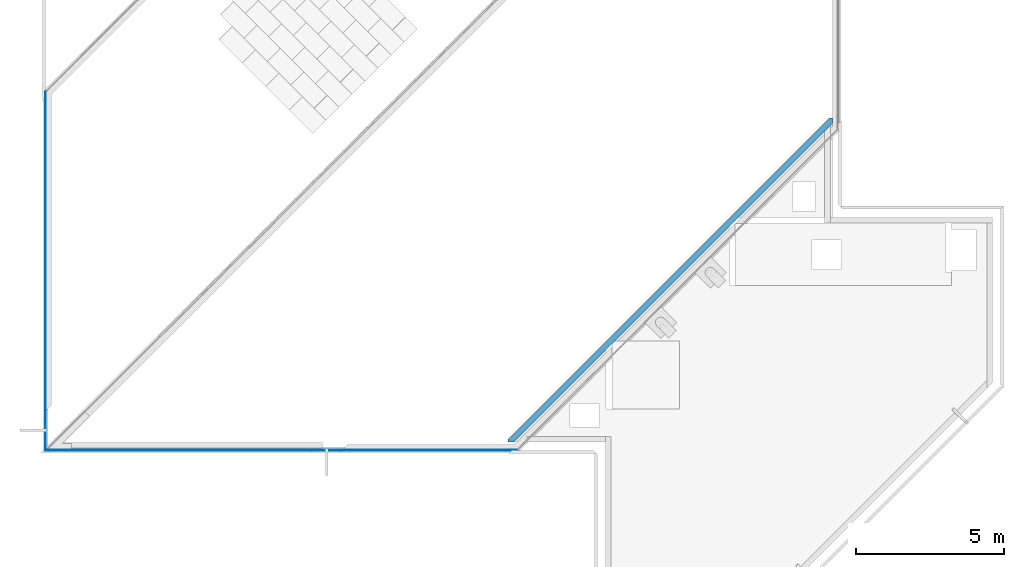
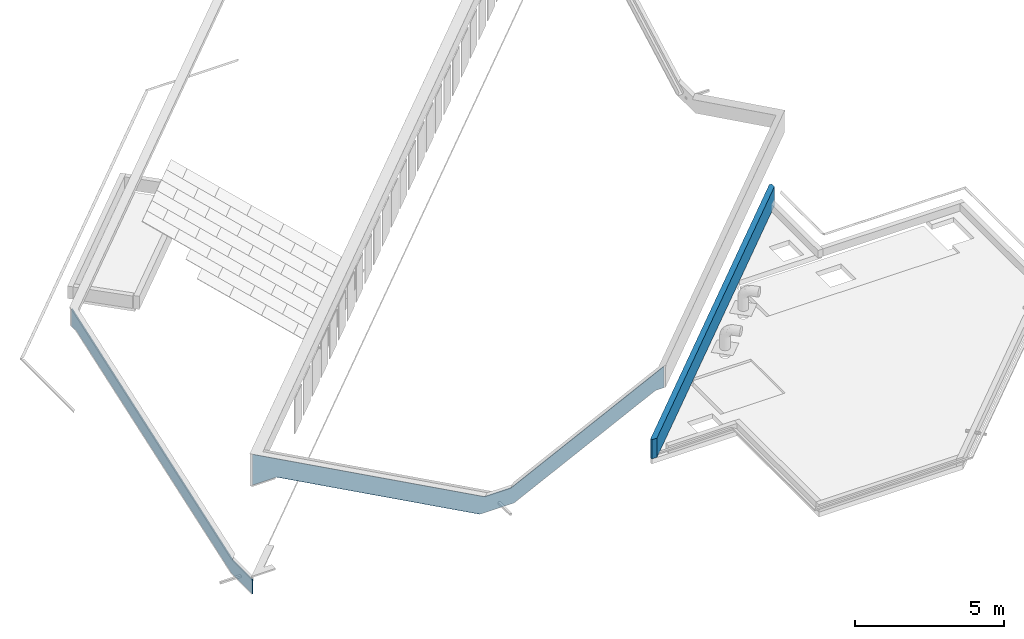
# One storey, part 4 of 8: 2 plates, 1 beam.
"""IFC4X3_ADD2 building model written with IfcOpenShell, lengths in millimetres."""

from ifc_helpers import new_model, si_unit, direction, frame, origin_with_axes, place, context, subcontext, project, spatial, polygons, source, transform, mapped, material, type_object, type_shapes, element, save


model = new_model("IFC4X3_ADD2")

# Units and contexts
model_context = context("Model", 3, precision=1e-05, world=origin_with_axes(), true_north=direction((0.0, 1.0)))
body_context = subcontext(model_context, "Body", "Model", "MODEL_VIEW")
ifc_project = project(units=[si_unit("LENGTHUNIT", "METRE", prefix="MILLI"), si_unit("AREAUNIT", "SQUARE_METRE"), si_unit("VOLUMEUNIT", "CUBIC_METRE"), si_unit("PLANEANGLEUNIT", "RADIAN"), si_unit("TIMEUNIT", "SECOND"), si_unit("MASSUNIT", "GRAM")], contexts=[model_context])

# Site, building, storey
site_placement = place(None, origin_with_axes())
site = spatial("IfcSite", under=ifc_project, at=site_placement, Name="Site", CompositionType="ELEMENT")
building_placement = place(site_placement, origin_with_axes())
building = spatial("IfcBuilding", under=site, at=building_placement, Name="IFC Building Story")
storey_placement = place(building_placement, frame((0.0, 0.0, 17050.0), z_axis=(0.0, 0.0, 1.0), x_axis=(1.0, 0.0, 0.0)))
storey = spatial("IfcBuildingStorey", under=building, at=storey_placement, Name="050", Elevation=17050.0)

# Beam
ifc_material = material(Name="BB_Beton_Bestaand")
beam_type = type_object("IfcBeamType", Name="BB_XX_Betonbalk_ rechthoekig_ center-center_SFB_200 x 790 mm", PredefinedType="NOTDEFINED")
shared_shape_1 = source(origin_with_axes(), body_context, "Body", "Tessellation", [
    polygons([(0.213261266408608, 0.0, 2.16573425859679e-12), (0.213261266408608, 0.0, 790.0), (4.33146851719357e-12, 0.213261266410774, 790.000000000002), (4.33146851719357e-12, 0.213261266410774, 2.16573425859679e-12), (10891.7749651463, 10971.5371151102, 790.0), (10891.7749651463, 10971.5371151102, 0.0), (0.329633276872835, 80.0917832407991, 0.0), (0.329633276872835, 80.0917832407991, 790.0), (10986.8316088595, 10971.558307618, 2.16573425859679e-12), (10986.8446345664, 10913.1329437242, 2.16573425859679e-12), (10986.8734704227, 10783.792907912, 2.16573425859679e-12), (10986.5781167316, 10783.4975542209, 2.16573425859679e-12), (10916.5781167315, 10713.4975542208, 2.16573425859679e-12), (10726.5781167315, 10523.4975542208, 2.16573425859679e-12), (203.125801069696, 0.0452385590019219, 2.16573425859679e-12), (0.347441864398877, 0.213338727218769, 2.16573425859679e-12), (10986.8734704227, 10783.792907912, 310.000000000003), (10986.8734704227, 10783.792907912, 790.0), (203.125801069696, 0.0452385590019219, 790.000000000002), (10986.8316088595, 10971.558307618, 790.0), (0.347441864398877, 0.213338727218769, 790.0)], [[[1, 2, 3, 4]], [[5, 6, 7, 8]], [[16, 7, 6]], [[16, 6, 14]], [[16, 14, 15]], [[15, 1, 16]], [[1, 4, 16]], [[6, 13, 14]], [[6, 12, 13]], [[6, 10, 11]], [[6, 11, 12]], [[6, 9, 10]], [[17, 18, 19]], [[17, 19, 15]], [[12, 11, 17]], [[17, 13, 12]], [[17, 14, 13]], [[17, 15, 14]], [[21, 3, 2]], [[21, 2, 19]], [[19, 18, 20]], [[19, 20, 5]], [[19, 5, 8]], [[19, 8, 21]], [[10, 9, 17]], [[17, 11, 10]], [[9, 20, 18]], [[9, 18, 17]], [[9, 6, 5, 20]], [[1, 15, 19, 2]], [[21, 16, 4, 3]], [[16, 21, 8, 7]]]),
])
type_shapes(beam_type, [shared_shape_1])
beam_placement = place(storey_placement, frame((-23416.5821826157, 12508.3040049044, -50.0), z_axis=(0.0, 0.0, 1.0), x_axis=(1.0, 0.0, 0.0)))
element("IfcBeam", 1, at=beam_placement, inside=storey, type_object=beam_type, material=ifc_material, Name="BB_XX_Betonbalk, rechthoekig, center-center_SFB:200 x 790 mm", ObjectType="BB_XX_Betonbalk, rechthoekig, center-center_SFB:200 x 790 mm", PredefinedType="BEAM", context=body_context, shape_type="MappedRepresentation", body=[
    mapped(shared_shape_1, transform((0.0, 0.0, 0.0))),
])

# Plates
shared_shape_2 = source(origin_with_axes(), body_context, "Body", "Tessellation", [
    polygons([(5917.66068279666, -14.0000000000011, 662.000000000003), (5917.66068279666, -11.9999999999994, 662.000000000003), (1778.78819087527, -11.9999999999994, 2695.0), (68.6785532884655, -11.9999999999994, 3535.0), (2.00000000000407, -11.9999999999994, 3567.7522771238), (0.0, -14.0000000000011, 3568.73467027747), (68.6785532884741, -14.0000000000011, 3535.0), (1778.78819087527, -14.0000000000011, 2695.0), (6978.03783669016, -14.0000000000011, 661.999999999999), (6978.03783669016, -12.0000000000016, 661.999999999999), (10720.3210771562, -14.0000000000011, 2695.0), (12266.5669807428, -14.0000000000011, 3535.0), (13647.1436803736, -14.0000000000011, 4285.0), (15900.943250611, -14.0000000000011, 5509.37940472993), (15902.943250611, -11.9999999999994, 5510.46590720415), (13647.1436803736, -12.0000000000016, 4285.0), (12266.5669807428, -11.9999999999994, 3535.0), (10720.3210771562, -11.9999999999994, 2695.0), (7146.11474018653, -14.0000000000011, 2.16573425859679e-12), (7146.11474018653, -11.9999999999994, 2.16573425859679e-12), (12107.6220369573, -11.9999999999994, 2695.0), (13654.065869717, -12.0000000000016, 3535.0), (15034.8192918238, -12.0000000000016, 4285.0), (15034.8192918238, -14.0000000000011, 4285.0), (13654.065869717, -14.0000000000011, 3535.0), (12107.6220369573, -14.0000000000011, 2695.0), (5828.51985853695, -14.0000000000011, 2.16573425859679e-12), (5828.51985853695, -11.9999999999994, 0.0), (341.918103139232, -14.0000000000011, 2695.0), (341.918103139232, -11.9999999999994, 2695.0), (2.00000000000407, -11.9999999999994, 2695.0), (2.00000000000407, -11.9999999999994, 3535.0), (15902.943250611, -11.9999999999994, 4285.0), (15900.943250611, -14.0000000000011, 4285.0), (0.0, -14.0000000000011, 3535.0), (0.0, -14.0000000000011, 2695.0)], [[[4, 5, 6]], [[4, 6, 7]], [[7, 8, 3]], [[7, 3, 4]], [[8, 1, 2]], [[8, 2, 3]], [[9, 10, 2, 1]], [[13, 14, 15]], [[13, 15, 16]], [[16, 17, 12]], [[16, 12, 13]], [[17, 18, 11]], [[17, 11, 12]], [[18, 10, 9]], [[18, 9, 11]], [[22, 23, 24]], [[22, 24, 25]], [[25, 26, 21]], [[25, 21, 22]], [[26, 19, 20]], [[26, 20, 21]], [[19, 27, 28, 20]], [[28, 27, 29, 30]], [[30, 31, 32]], [[23, 22, 16]], [[23, 16, 15]], [[15, 33, 23]], [[22, 21, 17]], [[22, 17, 16]], [[21, 18, 17]], [[21, 20, 10]], [[21, 10, 18]], [[20, 28, 2]], [[20, 2, 10]], [[28, 30, 3]], [[28, 3, 2]], [[30, 32, 4]], [[30, 4, 3]], [[32, 5, 4]], [[24, 34, 14]], [[14, 13, 24]], [[13, 25, 24]], [[13, 12, 26]], [[13, 26, 25]], [[7, 6, 35]], [[29, 8, 7]], [[7, 35, 36]], [[7, 36, 29]], [[29, 27, 1]], [[29, 1, 8]], [[27, 19, 9]], [[27, 9, 1]], [[19, 26, 11]], [[19, 11, 9]], [[26, 12, 11]], [[36, 31, 30, 29]], [[34, 24, 23, 33]], [[35, 6, 5]], [[35, 5, 32]], [[32, 31, 36]], [[32, 36, 35]], [[34, 33, 15, 14]]]),
    polygons([(5917.66068279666, 11.9999999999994, 662.000000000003), (5917.66068279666, 13.999999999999, 662.000000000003), (1778.78819087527, 13.999999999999, 2695.0), (68.6785532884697, 13.999999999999, 3535.0), (27.9999999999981, 13.999999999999, 3554.98116612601), (25.9999999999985, 11.9999999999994, 3555.96355927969), (68.6785532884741, 11.9999999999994, 3535.0), (1778.78819087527, 11.9999999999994, 2695.0), (6978.03783669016, 11.9999999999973, 661.999999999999), (6978.03783669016, 13.999999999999, 661.999999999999), (10720.3210771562, 13.999999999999, 2695.0), (10720.3210771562, 11.9999999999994, 2695.0), (12266.5669807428, 11.9999999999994, 3535.0), (13647.1436803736, 11.9999999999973, 4285.0), (15963.7128032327, 11.9999999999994, 5543.47904184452), (15965.7128032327, 13.999999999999, 5544.56554431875), (13647.1436803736, 13.999999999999, 4285.0), (12266.5669807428, 13.999999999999, 3535.0), (7146.11474018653, 11.9999999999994, 2.16573425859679e-12), (7146.11474018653, 13.999999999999, 2.16573425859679e-12), (12107.6220369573, 13.999999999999, 2695.0), (13654.065869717, 13.999999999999, 3535.0), (15034.8192918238, 13.999999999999, 4285.0), (15034.8192918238, 11.9999999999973, 4285.0), (13654.065869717, 11.9999999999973, 3535.0), (12107.6220369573, 11.9999999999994, 2695.0), (5828.51985853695, 13.999999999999, 2.16573425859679e-12), (5828.51985853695, 11.9999999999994, 0.0), (341.918103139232, 11.9999999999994, 2695.0), (341.918103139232, 13.999999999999, 2695.0), (-8.76955262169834, 13.999999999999, 2695.0), (-8.76955262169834, 13.999999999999, 3535.0), (27.9999999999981, 13.9999999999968, 3535.0), (15965.7128032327, 13.999999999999, 4285.0), (15963.7128032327, 11.9999999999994, 4285.0), (26.0000000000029, 11.9999999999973, 3535.0), (-10.7695526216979, 11.9999999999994, 3535.0), (-10.7695526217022, 11.9999999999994, 2695.0)], [[[4, 5, 6]], [[4, 6, 7]], [[7, 8, 3]], [[7, 3, 4]], [[8, 1, 2]], [[8, 2, 3]], [[9, 10, 2, 1]], [[11, 10, 9]], [[11, 9, 12]], [[14, 15, 16]], [[14, 16, 17]], [[17, 18, 13]], [[17, 13, 14]], [[18, 11, 12]], [[18, 12, 13]], [[22, 23, 24]], [[22, 24, 25]], [[25, 26, 21]], [[25, 21, 22]], [[26, 19, 20]], [[26, 20, 21]], [[27, 20, 19, 28]], [[27, 28, 29, 30]], [[30, 31, 32]], [[23, 22, 17]], [[23, 17, 16]], [[16, 34, 23]], [[22, 21, 18]], [[22, 18, 17]], [[21, 11, 18]], [[21, 20, 10]], [[21, 10, 11]], [[20, 27, 2]], [[20, 2, 10]], [[27, 3, 2]], [[27, 33, 3]], [[33, 4, 3]], [[33, 5, 4]], [[27, 30, 32]], [[27, 32, 33]], [[24, 35, 15]], [[15, 14, 24]], [[14, 25, 24]], [[14, 13, 26]], [[14, 26, 25]], [[36, 37, 38]], [[38, 7, 36]], [[7, 6, 36]], [[29, 8, 7]], [[7, 38, 29]], [[29, 28, 1]], [[29, 1, 8]], [[28, 19, 9]], [[28, 9, 1]], [[19, 26, 12]], [[19, 12, 9]], [[26, 13, 12]], [[32, 37, 36, 33]], [[38, 31, 30, 29]], [[5, 33, 36, 6]], [[23, 34, 35, 24]], [[37, 32, 31, 38]], [[35, 34, 16, 15]]]),
    polygons([(1778.78819087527, 11.9999999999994, 2695.0), (5917.66068279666, 11.9999999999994, 662.000000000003), (6978.03783669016, 11.9999999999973, 661.999999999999), (10720.3210771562, 11.9999999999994, 2695.0), (12266.5669807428, 11.9999999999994, 3535.0), (13647.1436803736, 11.9999999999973, 4285.0), (15929.7716777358, 11.9999999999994, 5525.04048342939), (15929.7716777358, 11.9999999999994, 4285.0), (15034.8192918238, 11.9999999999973, 4285.0), (13654.065869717, 11.9999999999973, 3535.0), (12107.6220369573, 11.9999999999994, 2695.0), (7146.11474018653, 11.9999999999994, 2.16573425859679e-12), (5828.51985853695, 11.9999999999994, 0.0), (341.918103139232, 11.9999999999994, 2695.0), (23.1715728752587, 11.9999999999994, 2695.0), (23.1715728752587, 11.9999999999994, 3535.0), (26.0000000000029, 12.0000000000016, 3535.0), (25.9999999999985, 11.9999999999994, 3555.96355927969), (68.6785532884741, 11.9999999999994, 3535.0), (1.99999999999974, -11.9999999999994, 3567.7522771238), (68.6785532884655, -11.9999999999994, 3535.0), (1778.78819087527, -11.9999999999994, 2695.0), (5917.66068279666, -11.9999999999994, 662.000000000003), (6978.03783669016, -12.0000000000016, 661.999999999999), (10720.3210771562, -11.9999999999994, 2695.0), (12266.5669807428, -11.9999999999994, 3535.0), (13647.1436803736, -12.0000000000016, 4285.0), (15905.7716777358, -11.9999999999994, 5512.00245373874), (15034.8192918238, -12.0000000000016, 4285.0), (13654.065869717, -12.0000000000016, 3535.0), (12107.6220369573, -11.9999999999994, 2695.0), (7146.11474018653, -11.9999999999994, 2.16573425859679e-12), (5828.51985853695, -11.9999999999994, 0.0), (341.918103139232, -11.9999999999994, 2695.0), (15905.7716777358, -11.9999999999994, 4285.0), (2.00000000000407, -11.9999999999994, 3535.0), (-0.828427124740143, -11.9999999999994, 3535.0), (-0.828427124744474, -11.9999999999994, 2695.0)], [[[9, 10, 6]], [[9, 6, 7]], [[7, 8, 9]], [[10, 11, 5]], [[10, 5, 6]], [[11, 4, 5]], [[11, 12, 3]], [[11, 3, 4]], [[12, 13, 2]], [[12, 2, 3]], [[13, 14, 1]], [[13, 1, 2]], [[17, 18, 19]], [[19, 14, 15]], [[19, 15, 17]], [[15, 16, 17]], [[19, 1, 14]], [[19, 18, 20]], [[19, 20, 21]], [[21, 22, 1]], [[21, 1, 19]], [[22, 23, 2]], [[22, 2, 1]], [[3, 2, 23, 24]], [[4, 3, 24]], [[4, 24, 25]], [[27, 28, 7]], [[27, 7, 6]], [[6, 5, 26]], [[6, 26, 27]], [[5, 4, 25]], [[5, 25, 26]], [[10, 9, 29]], [[10, 29, 30]], [[30, 31, 11]], [[30, 11, 10]], [[31, 32, 12]], [[31, 12, 11]], [[13, 12, 32, 33]], [[14, 13, 33, 34]], [[29, 35, 28]], [[28, 27, 29]], [[27, 30, 29]], [[27, 26, 31]], [[27, 31, 30]], [[36, 37, 34]], [[34, 21, 20]], [[34, 20, 36]], [[34, 22, 21]], [[34, 33, 23]], [[34, 23, 22]], [[33, 32, 24]], [[33, 24, 23]], [[32, 31, 25]], [[32, 25, 24]], [[31, 26, 25]], [[37, 38, 34]], [[16, 37, 36, 17]], [[15, 14, 34, 38]], [[37, 16, 15, 38]], [[18, 17, 36, 20]], [[9, 8, 35, 29]], [[35, 8, 7, 28]]]),
])
plate_1_placement = place(storey_placement, frame((-23114.0475477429, 12225.0, 258.0), z_axis=(0.0, 0.0, 1.0), x_axis=(-1.0, 0.0, 0.0)))
element("IfcPlate", 2, at=plate_1_placement, inside=storey, Name="Basic Wall:BB_07.04.63#01_Aluminium sandwichpanelen, 28 mm", ObjectType="Basic Wall:BB_07.04.63#01_Aluminium sandwichpanelen, 28 mm", PredefinedType="USERDEFINED", context=body_context, shape_type="MappedRepresentation", body=[
    mapped(shared_shape_2, transform((0.0, 0.0, 0.0))),
])
shared_shape_3 = source(origin_with_axes(), body_context, "Body", "Tessellation", [
    polygons([(1377.47711262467, -14.0000000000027, -2.16573425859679e-12), (1377.47711262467, -11.9999999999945, -2.16573425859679e-12), (11822.2190559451, -11.9999999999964, 3630.0), (11822.2190559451, -14.0000000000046, 3630.0), (0.0, -14.0000000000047, -2.16573425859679e-12), (0.0, -11.9999999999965, -2.16573425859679e-12), (0.0, -14.0000000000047, 607.911323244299), (0.0, -11.9999999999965, 607.911323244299), (1333.47530425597, -14.0000000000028, 607.911323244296), (1333.47530425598, -11.9999999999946, 607.911323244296), (10029.0500586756, -14.0000000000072, 3630.0), (12043.1876235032, -14.0000000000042, 4330.0), (12140.2428678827, -14.0000000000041, 4363.73089914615), (12138.2428678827, -11.9999999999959, 4363.03581256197), (12043.1876235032, -11.999999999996, 4330.0), (10029.0500586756, -11.999999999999, 3630.0), (12138.2428678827, -11.9999999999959, 4330.0), (12138.2428678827, -11.9999999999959, 3630.0), (12140.2428678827, -14.0000000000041, 3630.0), (12140.2428678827, -14.0000000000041, 4330.0)], [[[1, 2, 3, 4]], [[1, 5, 6, 2]], [[6, 5, 7, 8]], [[8, 7, 9, 10]], [[12, 13, 14]], [[12, 14, 15]], [[15, 16, 11]], [[15, 11, 12]], [[16, 10, 9]], [[16, 9, 11]], [[15, 14, 17]], [[3, 16, 15]], [[15, 17, 18]], [[15, 18, 3]], [[3, 2, 10]], [[3, 10, 16]], [[2, 6, 10]], [[6, 8, 10]], [[4, 19, 20]], [[9, 7, 5]], [[9, 5, 1]], [[1, 4, 11]], [[1, 11, 9]], [[4, 20, 12]], [[4, 12, 11]], [[20, 13, 12]], [[18, 19, 4, 3]], [[17, 14, 13]], [[17, 13, 20]], [[20, 19, 18]], [[20, 18, 17]]]),
    polygons([(1377.47711262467, 12.0, -2.16573425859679e-12), (1377.47711262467, 13.9999999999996, -2.16573425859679e-12), (11822.2190559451, 13.9999999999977, 3630.0), (11822.2190559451, 11.9999999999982, 3630.0), (0.0, 13.9999999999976, -2.16573425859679e-12), (0.0, 11.999999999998, -2.16573425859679e-12), (0.0, 11.999999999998, 607.911323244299), (0.0, 13.9999999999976, 607.911323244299), (1333.47530425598, 12.0, 607.911323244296), (1333.47530425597, 13.9999999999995, 607.911323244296), (10029.0500586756, 13.9999999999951, 3630.0), (10029.0500586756, 11.9999999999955, 3630.0), (12043.1876235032, 11.9999999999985, 4330.0), (12114.2428678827, 11.9999999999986, 4354.69477355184), (12112.2428678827, 13.9999999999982, 4353.99968696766), (12043.1876235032, 13.9999999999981, 4330.0), (12112.2428678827, 13.9999999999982, 4330.0), (12149.0124205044, 13.9999999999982, 4330.0), (12149.0124205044, 13.9999999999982, 3630.0), (12151.0124205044, 11.9999999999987, 3630.0), (12151.0124205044, 11.9999999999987, 4330.0), (12114.2428678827, 11.9999999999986, 4330.0)], [[[1, 2, 3, 4]], [[5, 2, 1, 6]], [[5, 6, 7, 8]], [[8, 7, 9, 10]], [[11, 10, 9]], [[11, 9, 12]], [[13, 14, 15]], [[13, 15, 16]], [[16, 11, 12]], [[16, 12, 13]], [[17, 18, 19]], [[19, 16, 17]], [[16, 15, 17]], [[3, 11, 16]], [[16, 19, 3]], [[3, 2, 10]], [[3, 10, 11]], [[2, 5, 10]], [[5, 8, 10]], [[4, 20, 21]], [[9, 7, 6]], [[9, 6, 1]], [[1, 4, 12]], [[1, 12, 9]], [[4, 22, 13]], [[4, 13, 12]], [[22, 14, 13]], [[4, 21, 22]], [[21, 18, 17, 22]], [[19, 20, 4, 3]], [[17, 15, 14, 22]], [[18, 21, 20, 19]]]),
    polygons([(11822.2190559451, 11.9999999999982, 3630.0), (1377.47711262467, 12.0, -2.16573425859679e-12), (0.0, 11.999999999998, -2.16573425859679e-12), (0.0, 11.999999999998, 607.911323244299), (1333.47530425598, 12.0, 607.911323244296), (10029.0500586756, 11.9999999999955, 3630.0), (12043.1876235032, 11.9999999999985, 4330.0), (12114.2428678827, 11.9999999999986, 4354.69477355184), (12114.2428678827, 11.9999999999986, 4330.0), (12117.0712950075, 11.9999999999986, 4330.0), (12117.0712950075, 11.9999999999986, 3630.0), (11822.2190559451, -11.9999999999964, 3630.0), (1377.47711262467, -11.9999999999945, -2.16573425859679e-12), (0.0, -11.9999999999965, -2.16573425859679e-12), (0.0, -11.9999999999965, 607.911323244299), (1333.47530425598, -11.9999999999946, 607.911323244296), (10029.0500586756, -11.999999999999, 3630.0), (12043.1876235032, -11.999999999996, 4330.0), (12138.2428678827, -11.9999999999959, 4363.03581256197), (12141.0712950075, -11.9999999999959, 3630.0), (12141.0712950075, -11.9999999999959, 4330.0), (12138.2428678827, -11.9999999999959, 4330.0)], [[[9, 10, 1]], [[1, 7, 8]], [[1, 8, 9]], [[1, 6, 7]], [[1, 2, 5]], [[1, 5, 6]], [[2, 3, 5]], [[3, 4, 5]], [[10, 11, 1]], [[2, 1, 12, 13]], [[3, 2, 13, 14]], [[4, 3, 14, 15]], [[5, 4, 15, 16]], [[6, 5, 16]], [[6, 16, 17]], [[18, 19, 8]], [[18, 8, 7]], [[7, 6, 17]], [[7, 17, 18]], [[16, 15, 14]], [[16, 14, 13]], [[13, 12, 17]], [[13, 17, 16]], [[22, 19, 18]], [[18, 12, 20]], [[18, 20, 22]], [[20, 21, 22]], [[18, 17, 12]], [[21, 10, 9, 22]], [[1, 11, 20, 12]], [[10, 21, 20, 11]], [[9, 8, 19, 22]]]),
])
plate_2_placement = place(storey_placement, frame((-39075.0, 12211.0126193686, 73.0), z_axis=(0.0, 0.0, 1.0), x_axis=(0.0, 1.0, 0.0)))
element("IfcPlate", 3, at=plate_2_placement, inside=storey, Name="Basic Wall:BB_07.04.63#01_Aluminium sandwichpanelen, 28 mm", ObjectType="Basic Wall:BB_07.04.63#01_Aluminium sandwichpanelen, 28 mm", PredefinedType="USERDEFINED", context=body_context, shape_type="MappedRepresentation", body=[
    mapped(shared_shape_3, transform((0.0, 0.0, 0.0))),
])

save(model, "model.ifc")
